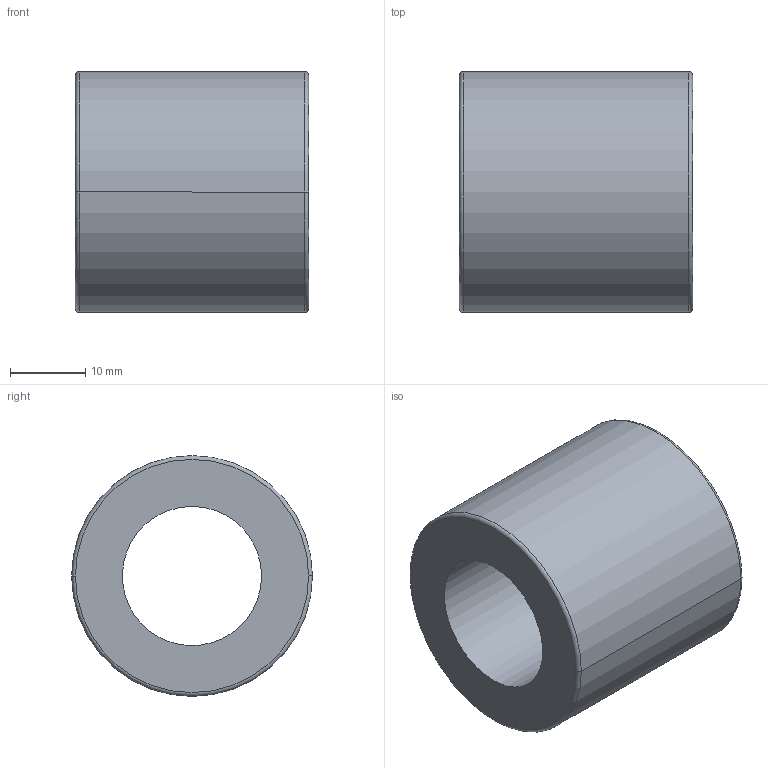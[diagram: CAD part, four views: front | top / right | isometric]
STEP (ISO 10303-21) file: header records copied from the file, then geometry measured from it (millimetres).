
FILE_DESCRIPTION(('CATIA V5 STEP Exchange'),'2;1');
FILE_NAME('C:\Users\aa\Documents\이댈\TM\STM\STM18.stp','2020-03-24T09:39:50+00:00',('none'),('none'),'CATIA Version 5 Release 20 SP 7 (IN-10)','CATIA V5 STEP AP203','none');
FILE_SCHEMA(('CONFIG_CONTROL_DESIGN'));
Length unit declared in the file: millimetre
Products named in the file (1): STM18
Bounding box: 31 x 32 x 32 mm (x, y, z)
Volume: 16588.1 mm3; surface area: 5945.7 mm2
Topology: 1 solids, 1 shells, 10 faces, 20 edges, 12 vertices
Faces by surface type: cylinder 4, torus 4, plane 2
Entity records: 322 total; most frequent: CARTESIAN_POINT 71, ORIENTED_EDGE 40, DIRECTION 38, AXIS2_PLACEMENT_3D 25, EDGE_CURVE 20, CIRCLE 14, EDGE_LOOP 12, VERTEX_POINT 12
